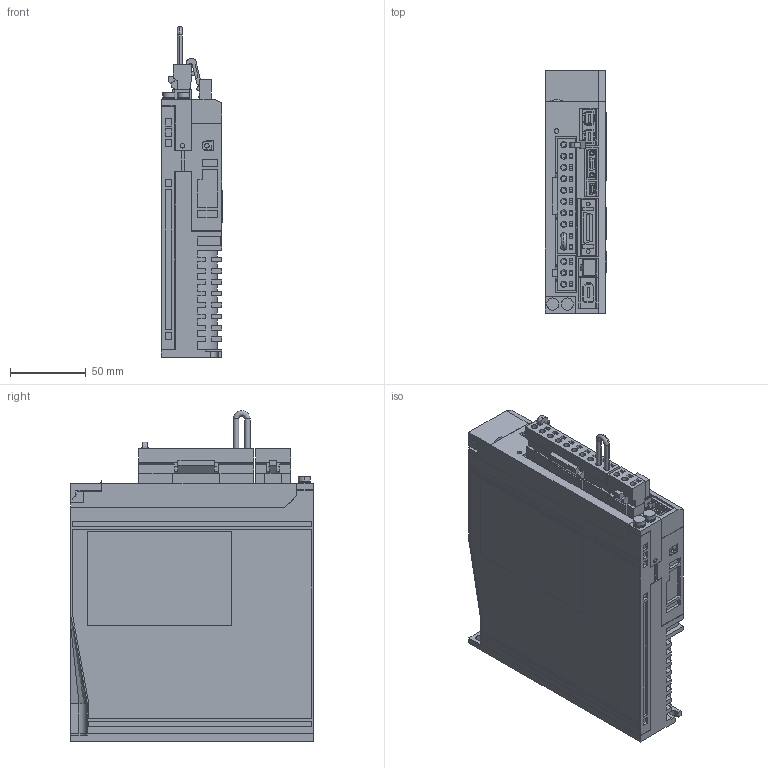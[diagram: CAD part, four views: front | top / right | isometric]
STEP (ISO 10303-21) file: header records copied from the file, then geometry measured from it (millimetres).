
FILE_DESCRIPTION (( 'STEP AP203' ), '1' );
FILE_NAME ('sgdv_2r8a2_b.STEP', '2012-08-28T04:32:34', ( '匠エンジニアリング山之内' ), ( 'TAKUMI-Engniaring' ), 'SwSTEP 2.0', 'SolidWorks 2006303', '' );
FILE_SCHEMA (( 'CONFIG_CONTROL_DESIGN' ));
Products named in the file (11): sgdv_2r8a2_b_base; sgdv_2r8a2_b_connector_1; sgdv_2r8a2_b_cover; sgdv_2r8a2_b; sgdv_2r8a2_b_connector; sgdv_2r8a2_b_connector_2; sgdv_2r8a2_b_cable; sgdv_2r8a2_b_pin; sgdv_2r8a2_b_cover2; sgdv_2r8a2_b_connector_3; sgdv_2r8a2_b_cover3
Assembly tree (11 placements, depth 3):
  sgdv_2r8a2_b
    sgdv_2r8a2_b_cover2  x2
    sgdv_2r8a2_b_connector_1
    sgdv_2r8a2_b_connector
      sgdv_2r8a2_b_pin
      sgdv_2r8a2_b_cable
      sgdv_2r8a2_b_connector_2
    sgdv_2r8a2_b_cover3
    sgdv_2r8a2_b_cover
    sgdv_2r8a2_b_base
    sgdv_2r8a2_b_connector_3
Bounding box: 40.5 x 160 x 218 mm (x, y, z)
Volume: 993301.5 mm3; surface area: 160547.7 mm2
Topology: 10 solids, 10 shells, 2043 faces, 5456 edges, 3593 vertices
Faces by surface type: plane 1861, cylinder 174, cone 4, torus 2, sphere 1, bspline 1
Entity records: 63119 total; most frequent: CARTESIAN_POINT 11066, ORIENTED_EDGE 10804, DIRECTION 9855, EDGE_CURVE 5402, VECTOR 5007, LINE 5007, VERTEX_POINT 3557, AXIS2_PLACEMENT_3D 2424
